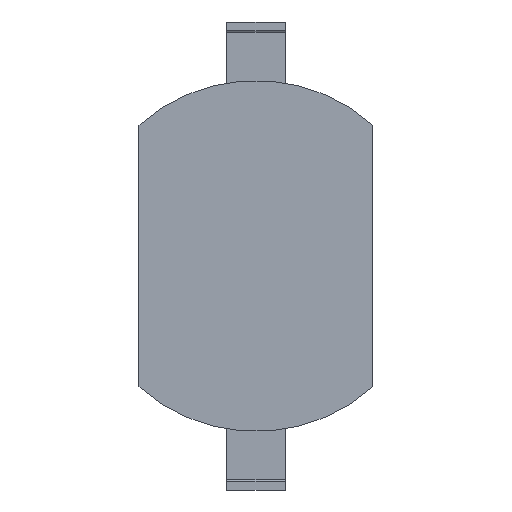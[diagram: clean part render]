
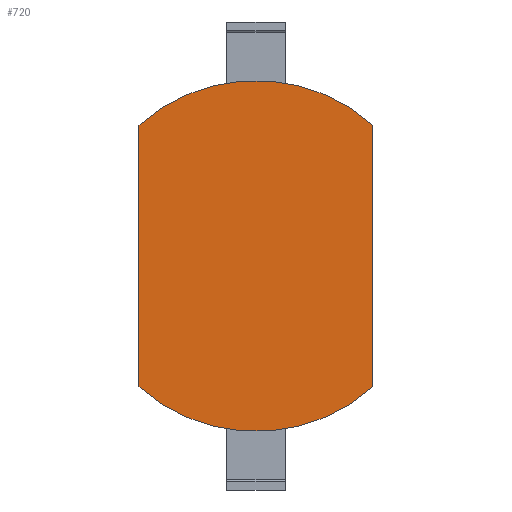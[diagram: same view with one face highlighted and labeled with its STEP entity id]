
A CAD part, front view. The second image highlights one B-rep face of the part: STEP entity #720.
In plain terms, the highlighted planar face has unit normal (0, -1, 0).
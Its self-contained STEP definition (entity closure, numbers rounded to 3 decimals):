
#20 = VERTEX_POINT ( 'NONE', #178 ) ;
#114 = DIRECTION ( 'NONE',  ( 0., -1., 0. ) ) ;
#156 = LINE ( 'NONE', #412, #278 ) ;
#157 = VERTEX_POINT ( 'NONE', #1201 ) ;
#178 = CARTESIAN_POINT ( 'NONE',  ( 4., 0., 4.472 ) ) ;
#191 = ORIENTED_EDGE ( 'NONE', *, *, #646, .F. ) ;
#197 = ORIENTED_EDGE ( 'NONE', *, *, #867, .F. ) ;
#210 = AXIS2_PLACEMENT_3D ( 'NONE', #1091, #114, #243 ) ;
#243 = DIRECTION ( 'NONE',  ( 0., 0., -1. ) ) ;
#278 = VECTOR ( 'NONE', #503, 1000. ) ;
#325 = FACE_OUTER_BOUND ( 'NONE', #486, .T. ) ;
#357 = DIRECTION ( 'NONE',  ( 0., -1., 0. ) ) ;
#373 = CIRCLE ( 'NONE', #1104, 6. ) ;
#412 = CARTESIAN_POINT ( 'NONE',  ( 4., 0., 0. ) ) ;
#416 = VECTOR ( 'NONE', #1010, 1000. ) ;
#486 = EDGE_LOOP ( 'NONE', ( #197, #1420, #191, #874 ) ) ;
#503 = DIRECTION ( 'NONE',  ( 0., 0., -1. ) ) ;
#551 = VERTEX_POINT ( 'NONE', #1193 ) ;
#646 = EDGE_CURVE ( 'NONE', #20, #551, #156, .T. ) ;
#720 = ADVANCED_FACE ( 'NONE', ( #325 ), #1161, .T. ) ;
#783 = CIRCLE ( 'NONE', #210, 6. ) ;
#816 = EDGE_CURVE ( 'NONE', #157, #551, #783, .T. ) ;
#820 = DIRECTION ( 'NONE',  ( 0., 0., -1. ) ) ;
#867 = EDGE_CURVE ( 'NONE', #157, #902, #1117, .T. ) ;
#874 = ORIENTED_EDGE ( 'NONE', *, *, #1249, .T. ) ;
#901 = CARTESIAN_POINT ( 'NONE',  ( 6., 0., 0. ) ) ;
#902 = VERTEX_POINT ( 'NONE', #1479 ) ;
#1010 = DIRECTION ( 'NONE',  ( 0., 0., 1. ) ) ;
#1050 = DIRECTION ( 'NONE',  ( 0., -1., 0. ) ) ;
#1091 = CARTESIAN_POINT ( 'NONE',  ( 0., 0., 0. ) ) ;
#1104 = AXIS2_PLACEMENT_3D ( 'NONE', #1439, #357, #820 ) ;
#1117 = LINE ( 'NONE', #1358, #416 ) ;
#1151 = DIRECTION ( 'NONE',  ( 0., 0., -1. ) ) ;
#1161 = PLANE ( 'NONE',  #1471 ) ;
#1193 = CARTESIAN_POINT ( 'NONE',  ( 4., 0., -4.472 ) ) ;
#1201 = CARTESIAN_POINT ( 'NONE',  ( -4., 0., -4.472 ) ) ;
#1249 = EDGE_CURVE ( 'NONE', #20, #902, #373, .T. ) ;
#1358 = CARTESIAN_POINT ( 'NONE',  ( -4., 0., 0. ) ) ;
#1420 = ORIENTED_EDGE ( 'NONE', *, *, #816, .T. ) ;
#1439 = CARTESIAN_POINT ( 'NONE',  ( 0., 0., 0. ) ) ;
#1471 = AXIS2_PLACEMENT_3D ( 'NONE', #901, #1050, #1151 ) ;
#1479 = CARTESIAN_POINT ( 'NONE',  ( -4., 0., 4.472 ) ) ;
